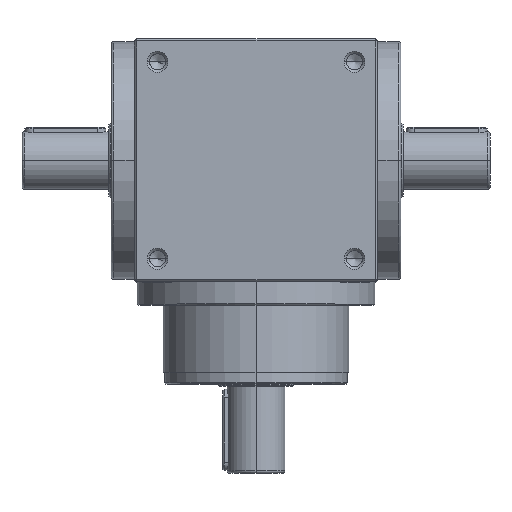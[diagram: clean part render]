
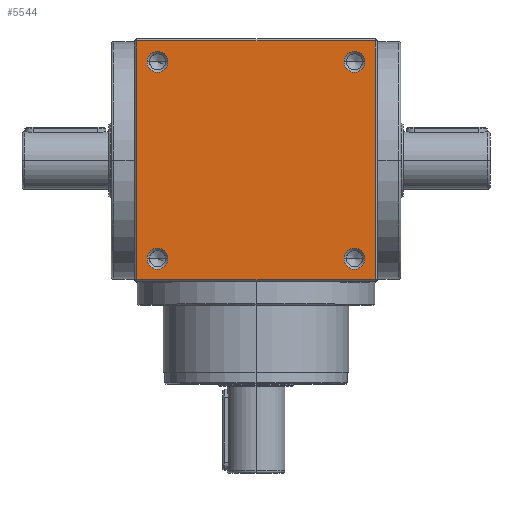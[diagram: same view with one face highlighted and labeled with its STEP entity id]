
A CAD part, top view. The second image highlights one B-rep face of the part: STEP entity #5544.
In plain terms, the highlighted planar face has unit normal (0, 0, 1).
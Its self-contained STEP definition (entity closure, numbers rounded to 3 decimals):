
#175 = CARTESIAN_POINT ( 'NONE',  ( 85., 85., 105. ) ) ;
#258 = DIRECTION ( 'NONE',  ( 0., 0., -1. ) ) ;
#291 = CARTESIAN_POINT ( 'NONE',  ( 76., -85., 105. ) ) ;
#309 = EDGE_LOOP ( 'NONE', ( #2141, #9245 ) ) ;
#450 = CARTESIAN_POINT ( 'NONE',  ( 103., 103., 105. ) ) ;
#541 = ORIENTED_EDGE ( 'NONE', *, *, #6712, .T. ) ;
#610 = FACE_BOUND ( 'NONE', #309, .T. ) ;
#779 = VERTEX_POINT ( 'NONE', #2734 ) ;
#879 = FACE_BOUND ( 'NONE', #1501, .T. ) ;
#940 = DIRECTION ( 'NONE',  ( 0., 0., -1. ) ) ;
#997 = FACE_OUTER_BOUND ( 'NONE', #7694, .T. ) ;
#1038 = ORIENTED_EDGE ( 'NONE', *, *, #4582, .T. ) ;
#1228 = CARTESIAN_POINT ( 'NONE',  ( 85., -85., 105. ) ) ;
#1264 = ORIENTED_EDGE ( 'NONE', *, *, #6647, .T. ) ;
#1276 = DIRECTION ( 'NONE',  ( 0., 0., -1. ) ) ;
#1391 = CARTESIAN_POINT ( 'NONE',  ( 0., 0., 105. ) ) ;
#1429 = PLANE ( 'NONE',  #3647 ) ;
#1501 = EDGE_LOOP ( 'NONE', ( #541, #3350 ) ) ;
#1620 = AXIS2_PLACEMENT_3D ( 'NONE', #5898, #940, #7559 ) ;
#1624 = LINE ( 'NONE', #10477, #8255 ) ;
#1965 = ORIENTED_EDGE ( 'NONE', *, *, #2648, .T. ) ;
#2141 = ORIENTED_EDGE ( 'NONE', *, *, #8942, .T. ) ;
#2150 = EDGE_CURVE ( 'NONE', #4617, #4012, #1624, .T. ) ;
#2195 = ORIENTED_EDGE ( 'NONE', *, *, #2150, .T. ) ;
#2213 = CIRCLE ( 'NONE', #8726, 9. ) ;
#2457 = CARTESIAN_POINT ( 'NONE',  ( -103., -103., 105. ) ) ;
#2648 = EDGE_CURVE ( 'NONE', #6396, #2923, #2213, .T. ) ;
#2734 = CARTESIAN_POINT ( 'NONE',  ( -76., 85., 105. ) ) ;
#2779 = AXIS2_PLACEMENT_3D ( 'NONE', #6970, #1276, #3705 ) ;
#2785 = EDGE_CURVE ( 'NONE', #3411, #779, #7376, .T. ) ;
#2818 = DIRECTION ( 'NONE',  ( 0., -1., 0. ) ) ;
#2923 = VERTEX_POINT ( 'NONE', #3121 ) ;
#2939 = VERTEX_POINT ( 'NONE', #5843 ) ;
#2947 = FACE_BOUND ( 'NONE', #4367, .T. ) ;
#3121 = CARTESIAN_POINT ( 'NONE',  ( -76., -85., 105. ) ) ;
#3126 = CIRCLE ( 'NONE', #6721, 9. ) ;
#3213 = EDGE_LOOP ( 'NONE', ( #4511, #1264 ) ) ;
#3257 = LINE ( 'NONE', #7891, #9276 ) ;
#3350 = ORIENTED_EDGE ( 'NONE', *, *, #2785, .T. ) ;
#3411 = VERTEX_POINT ( 'NONE', #7591 ) ;
#3575 = DIRECTION ( 'NONE',  ( -1., 0., 0. ) ) ;
#3579 = EDGE_CURVE ( 'NONE', #2923, #6396, #5312, .T. ) ;
#3647 = AXIS2_PLACEMENT_3D ( 'NONE', #1391, #5628, #6362 ) ;
#3690 = EDGE_CURVE ( 'NONE', #4012, #4593, #9531, .T. ) ;
#3705 = DIRECTION ( 'NONE',  ( -1., 0., 0. ) ) ;
#3937 = CARTESIAN_POINT ( 'NONE',  ( -85., 85., 105. ) ) ;
#4012 = VERTEX_POINT ( 'NONE', #450 ) ;
#4045 = DIRECTION ( 'NONE',  ( 0., 0., -1. ) ) ;
#4367 = EDGE_LOOP ( 'NONE', ( #10195, #1965 ) ) ;
#4437 = VERTEX_POINT ( 'NONE', #10023 ) ;
#4441 = EDGE_CURVE ( 'NONE', #4437, #2939, #8878, .T. ) ;
#4511 = ORIENTED_EDGE ( 'NONE', *, *, #8078, .T. ) ;
#4582 = EDGE_CURVE ( 'NONE', #4593, #5599, #3257, .T. ) ;
#4593 = VERTEX_POINT ( 'NONE', #10351 ) ;
#4617 = VERTEX_POINT ( 'NONE', #9468 ) ;
#4674 = DIRECTION ( 'NONE',  ( 0., 1., 0. ) ) ;
#5250 = ORIENTED_EDGE ( 'NONE', *, *, #3690, .T. ) ;
#5312 = CIRCLE ( 'NONE', #2779, 9. ) ;
#5465 = DIRECTION ( 'NONE',  ( 0., 0., -1. ) ) ;
#5511 = DIRECTION ( 'NONE',  ( -1., 0., 0. ) ) ;
#5544 = ADVANCED_FACE ( 'NONE', ( #7331, #2947, #610, #879, #997 ), #1429, .F. ) ;
#5599 = VERTEX_POINT ( 'NONE', #2457 ) ;
#5628 = DIRECTION ( 'NONE',  ( 0., 0., -1. ) ) ;
#5706 = CARTESIAN_POINT ( 'NONE',  ( -85., 85., 105. ) ) ;
#5821 = CIRCLE ( 'NONE', #5855, 9. ) ;
#5843 = CARTESIAN_POINT ( 'NONE',  ( 94., 85., 105. ) ) ;
#5855 = AXIS2_PLACEMENT_3D ( 'NONE', #3937, #10603, #7973 ) ;
#5873 = DIRECTION ( 'NONE',  ( -1., 0., 0. ) ) ;
#5898 = CARTESIAN_POINT ( 'NONE',  ( 85., -85., 105. ) ) ;
#5911 = DIRECTION ( 'NONE',  ( 1., 0., 0. ) ) ;
#6190 = DIRECTION ( 'NONE',  ( -1., 0., 0. ) ) ;
#6276 = CARTESIAN_POINT ( 'NONE',  ( 0., 103., 105. ) ) ;
#6362 = DIRECTION ( 'NONE',  ( -1., 0., 0. ) ) ;
#6396 = VERTEX_POINT ( 'NONE', #8263 ) ;
#6614 = VERTEX_POINT ( 'NONE', #6959 ) ;
#6647 = EDGE_CURVE ( 'NONE', #10768, #6614, #9737, .T. ) ;
#6712 = EDGE_CURVE ( 'NONE', #779, #3411, #5821, .T. ) ;
#6721 = AXIS2_PLACEMENT_3D ( 'NONE', #7434, #7537, #5873 ) ;
#6815 = AXIS2_PLACEMENT_3D ( 'NONE', #5706, #4045, #9855 ) ;
#6959 = CARTESIAN_POINT ( 'NONE',  ( 94., -85., 105. ) ) ;
#6970 = CARTESIAN_POINT ( 'NONE',  ( -85., -85., 105. ) ) ;
#7018 = VECTOR ( 'NONE', #5911, 1000. ) ;
#7331 = FACE_BOUND ( 'NONE', #3213, .T. ) ;
#7376 = CIRCLE ( 'NONE', #6815, 9. ) ;
#7434 = CARTESIAN_POINT ( 'NONE',  ( 85., 85., 105. ) ) ;
#7537 = DIRECTION ( 'NONE',  ( 0., 0., -1. ) ) ;
#7559 = DIRECTION ( 'NONE',  ( -1., 0., 0. ) ) ;
#7591 = CARTESIAN_POINT ( 'NONE',  ( -94., 85., 105. ) ) ;
#7694 = EDGE_LOOP ( 'NONE', ( #1038, #7704, #2195, #5250 ) ) ;
#7704 = ORIENTED_EDGE ( 'NONE', *, *, #8928, .T. ) ;
#7891 = CARTESIAN_POINT ( 'NONE',  ( -103., 0., 105. ) ) ;
#7973 = DIRECTION ( 'NONE',  ( -1., 0., 0. ) ) ;
#8078 = EDGE_CURVE ( 'NONE', #6614, #10768, #8783, .T. ) ;
#8109 = DIRECTION ( 'NONE',  ( 0., 0., -1. ) ) ;
#8255 = VECTOR ( 'NONE', #4674, 1000. ) ;
#8263 = CARTESIAN_POINT ( 'NONE',  ( -94., -85., 105. ) ) ;
#8346 = VECTOR ( 'NONE', #5511, 1000. ) ;
#8612 = AXIS2_PLACEMENT_3D ( 'NONE', #175, #258, #3575 ) ;
#8726 = AXIS2_PLACEMENT_3D ( 'NONE', #10532, #8109, #8859 ) ;
#8783 = CIRCLE ( 'NONE', #1620, 9. ) ;
#8859 = DIRECTION ( 'NONE',  ( -1., 0., 0. ) ) ;
#8878 = CIRCLE ( 'NONE', #8612, 9. ) ;
#8928 = EDGE_CURVE ( 'NONE', #5599, #4617, #10560, .T. ) ;
#8942 = EDGE_CURVE ( 'NONE', #2939, #4437, #3126, .T. ) ;
#9245 = ORIENTED_EDGE ( 'NONE', *, *, #4441, .T. ) ;
#9276 = VECTOR ( 'NONE', #2818, 1000. ) ;
#9353 = AXIS2_PLACEMENT_3D ( 'NONE', #1228, #5465, #6190 ) ;
#9468 = CARTESIAN_POINT ( 'NONE',  ( 103., -103., 105. ) ) ;
#9531 = LINE ( 'NONE', #6276, #8346 ) ;
#9737 = CIRCLE ( 'NONE', #9353, 9. ) ;
#9855 = DIRECTION ( 'NONE',  ( -1., 0., 0. ) ) ;
#10001 = CARTESIAN_POINT ( 'NONE',  ( 0., -103., 105. ) ) ;
#10023 = CARTESIAN_POINT ( 'NONE',  ( 76., 85., 105. ) ) ;
#10195 = ORIENTED_EDGE ( 'NONE', *, *, #3579, .T. ) ;
#10351 = CARTESIAN_POINT ( 'NONE',  ( -103., 103., 105. ) ) ;
#10477 = CARTESIAN_POINT ( 'NONE',  ( 103., 0., 105. ) ) ;
#10532 = CARTESIAN_POINT ( 'NONE',  ( -85., -85., 105. ) ) ;
#10560 = LINE ( 'NONE', #10001, #7018 ) ;
#10603 = DIRECTION ( 'NONE',  ( 0., 0., -1. ) ) ;
#10768 = VERTEX_POINT ( 'NONE', #291 ) ;
